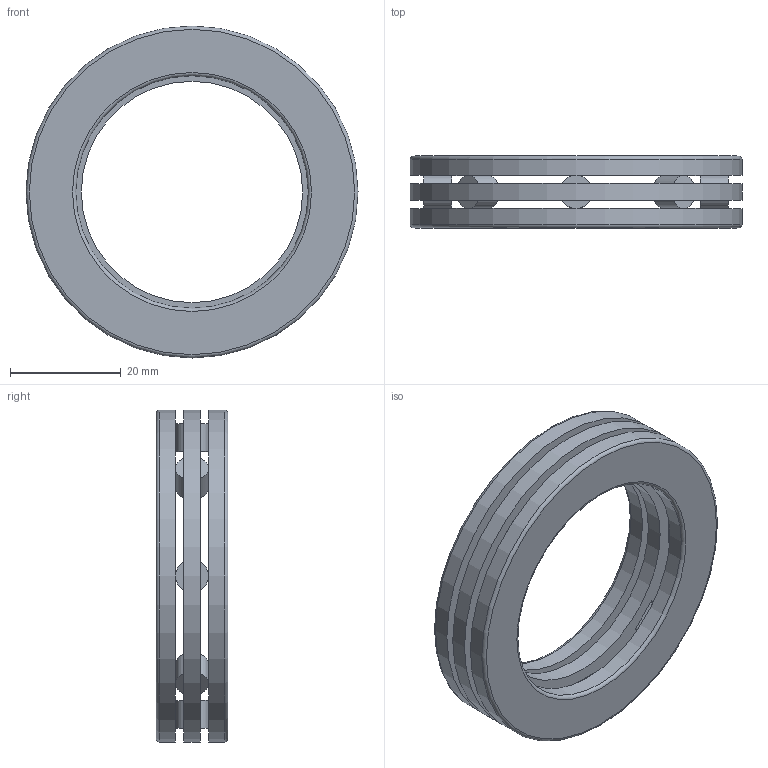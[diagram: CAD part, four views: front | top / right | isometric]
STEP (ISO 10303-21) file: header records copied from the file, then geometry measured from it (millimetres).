
FILE_DESCRIPTION(/* description */ (''),/* implementation_level */ '2;1');
FILE_NAME(/* name */ 'D:\moje\parametrické\Axiálne valčekové lo\X2\017E\X0\iská\811--\811--_\81108.stp',/* time_stamp */ '2016-09-27T08:32:15+02:00',/* author */ ('OUBALASKO'),/* organization */ (''),/* preprocessor_version */ 'ST-DEVELOPER v15.6',/* originating_system */ 'Autodesk Inventor 2015',/* authorisation */ '');
FILE_SCHEMA (('AUTOMOTIVE_DESIGN { 1 0 10303 214 3 1 1 }'));
Length unit declared in the file: millimetre
Products named in the file (6): GS81108; WS81108; 81108-cage; 81108-roller; K81108TNG; 81108
Assembly tree (12 placements, depth 3):
  81108
    GS81108
    WS81108
    K81108TNG
      81108-cage
      81108-roller  x8
Bounding box: 60 x 13 x 60 mm (x, y, z)
Volume: 15547.1 mm3; surface area: 13397.7 mm2
Topology: 11 solids, 11 shells, 72 faces, 146 edges, 96 vertices
Faces by surface type: plane 54, cylinder 14, torus 4
Full cylindrical faces by diameter (mm): 6 x8, 40 x2, 42 x1, 60 x3
Entity records: 1657 total; most frequent: DIRECTION 270, CARTESIAN_POINT 265, ORIENTED_EDGE 228, EDGE_CURVE 114, LINE 96, VECTOR 96, AXIS2_PLACEMENT_3D 87, EDGE_LOOP 84
